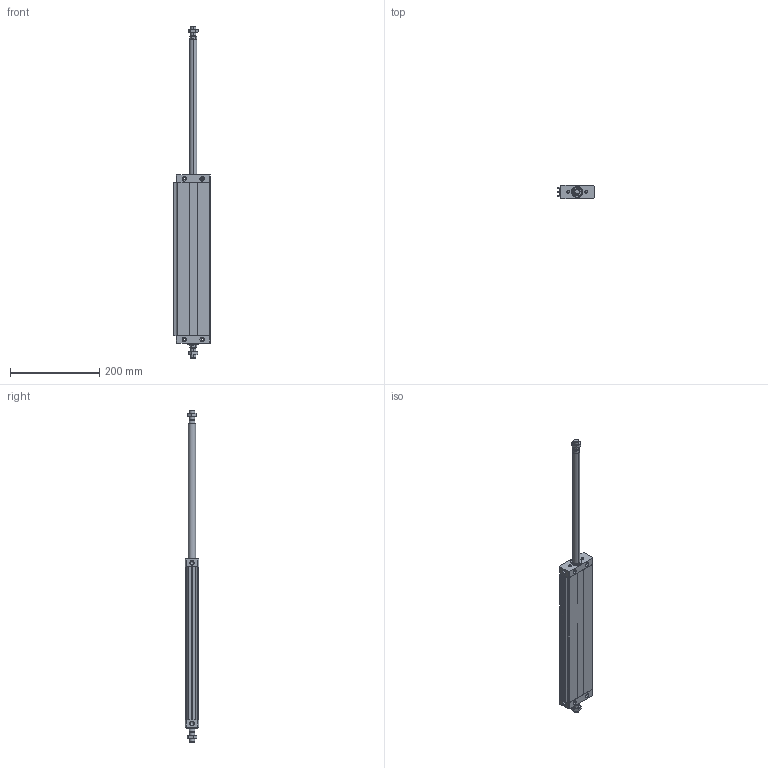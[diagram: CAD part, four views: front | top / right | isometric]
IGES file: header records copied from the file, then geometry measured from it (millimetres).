
Global section: file name: No Iges File Name specified; native system: Autodesk Inventor 2011; preprocessor: AutoDesk Inventor Iges Exporter R2011; author: airolcr1; date: 20101213.153240; units: millimetre
Bounding box: 82.5 x 30 x 742 mm (x, y, z)
Volume: 580356.2 mm3; surface area: 206560 mm2
Topology: 6 solids, 6 shells, 276 faces, 652 edges, 396 vertices
Faces by surface type: bspline 110, plane 98, cone 36, cylinder 18, revolution 14
